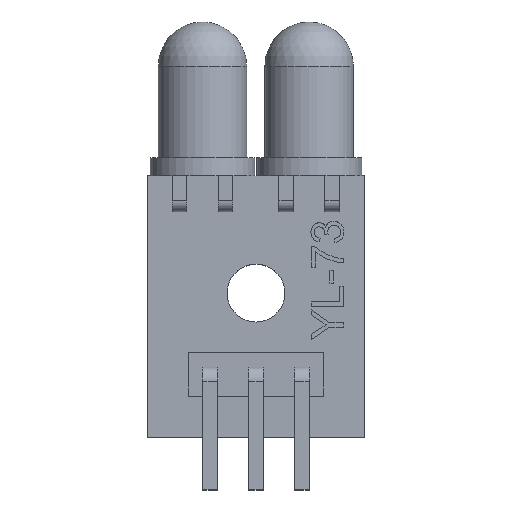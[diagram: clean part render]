
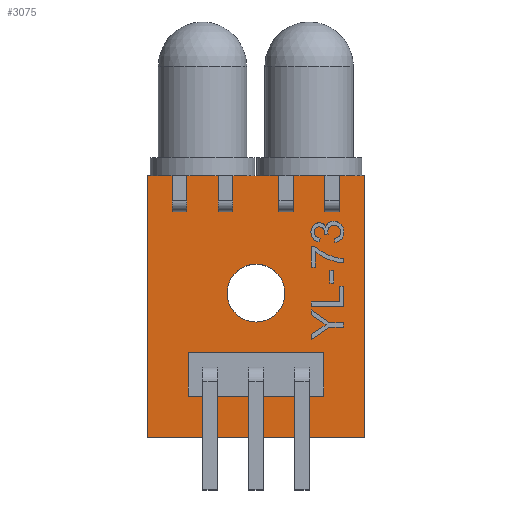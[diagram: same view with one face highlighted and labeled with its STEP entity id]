
A CAD part, top view. The second image highlights one B-rep face of the part: STEP entity #3075.
In plain terms, the highlighted planar face has unit normal (0, 0, 1).
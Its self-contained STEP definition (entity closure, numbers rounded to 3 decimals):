
#161=FACE_BOUND('',#426,.T.);
#162=FACE_BOUND('',#427,.T.);
#163=FACE_BOUND('',#428,.T.);
#164=FACE_BOUND('',#429,.T.);
#165=FACE_BOUND('',#430,.T.);
#177=CIRCLE('',#3282,1.6);
#234=FACE_OUTER_BOUND('',#425,.T.);
#425=EDGE_LOOP('',(#2117,#2118,#2119,#2120));
#426=EDGE_LOOP('',(#2121,#2122,#2123,#2124));
#427=EDGE_LOOP('',(#2125,#2126,#2127,#2128));
#428=EDGE_LOOP('',(#2129,#2130,#2131,#2132));
#429=EDGE_LOOP('',(#2133,#2134,#2135,#2136));
#430=EDGE_LOOP('',(#2137));
#610=LINE('',#4153,#955);
#614=LINE('',#4161,#959);
#617=LINE('',#4167,#962);
#620=LINE('',#4172,#965);
#622=LINE('',#4177,#967);
#626=LINE('',#4185,#971);
#629=LINE('',#4191,#974);
#632=LINE('',#4196,#977);
#634=LINE('',#4201,#979);
#638=LINE('',#4209,#983);
#641=LINE('',#4215,#986);
#644=LINE('',#4220,#989);
#646=LINE('',#4225,#991);
#650=LINE('',#4233,#995);
#653=LINE('',#4239,#998);
#656=LINE('',#4244,#1001);
#660=LINE('',#4258,#1005);
#663=LINE('',#4264,#1008);
#666=LINE('',#4270,#1011);
#669=LINE('',#4274,#1014);
#955=VECTOR('',#3448,10.);
#959=VECTOR('',#3454,10.);
#962=VECTOR('',#3459,10.);
#965=VECTOR('',#3464,10.);
#967=VECTOR('',#3468,10.);
#971=VECTOR('',#3474,10.);
#974=VECTOR('',#3479,10.);
#977=VECTOR('',#3484,10.);
#979=VECTOR('',#3488,10.);
#983=VECTOR('',#3494,10.);
#986=VECTOR('',#3499,10.);
#989=VECTOR('',#3504,10.);
#991=VECTOR('',#3508,10.);
#995=VECTOR('',#3514,10.);
#998=VECTOR('',#3519,10.);
#1001=VECTOR('',#3524,10.);
#1005=VECTOR('',#3536,10.);
#1008=VECTOR('',#3541,10.);
#1011=VECTOR('',#3546,10.);
#1014=VECTOR('',#3551,10.);
#1300=VERTEX_POINT('',#4151);
#1301=VERTEX_POINT('',#4152);
#1304=VERTEX_POINT('',#4160);
#1306=VERTEX_POINT('',#4166);
#1308=VERTEX_POINT('',#4175);
#1309=VERTEX_POINT('',#4176);
#1312=VERTEX_POINT('',#4184);
#1314=VERTEX_POINT('',#4190);
#1316=VERTEX_POINT('',#4199);
#1317=VERTEX_POINT('',#4200);
#1320=VERTEX_POINT('',#4208);
#1322=VERTEX_POINT('',#4214);
#1324=VERTEX_POINT('',#4223);
#1325=VERTEX_POINT('',#4224);
#1328=VERTEX_POINT('',#4232);
#1330=VERTEX_POINT('',#4238);
#1332=VERTEX_POINT('',#4247);
#1336=VERTEX_POINT('',#4255);
#1337=VERTEX_POINT('',#4257);
#1339=VERTEX_POINT('',#4263);
#1341=VERTEX_POINT('',#4269);
#1596=EDGE_CURVE('',#1300,#1301,#610,.T.);
#1600=EDGE_CURVE('',#1301,#1304,#614,.T.);
#1603=EDGE_CURVE('',#1304,#1306,#617,.T.);
#1606=EDGE_CURVE('',#1306,#1300,#620,.T.);
#1608=EDGE_CURVE('',#1308,#1309,#622,.T.);
#1612=EDGE_CURVE('',#1309,#1312,#626,.T.);
#1615=EDGE_CURVE('',#1312,#1314,#629,.T.);
#1618=EDGE_CURVE('',#1314,#1308,#632,.T.);
#1620=EDGE_CURVE('',#1316,#1317,#634,.T.);
#1624=EDGE_CURVE('',#1317,#1320,#638,.T.);
#1627=EDGE_CURVE('',#1320,#1322,#641,.T.);
#1630=EDGE_CURVE('',#1322,#1316,#644,.T.);
#1632=EDGE_CURVE('',#1324,#1325,#646,.T.);
#1636=EDGE_CURVE('',#1325,#1328,#650,.T.);
#1639=EDGE_CURVE('',#1328,#1330,#653,.T.);
#1642=EDGE_CURVE('',#1330,#1324,#656,.T.);
#1644=EDGE_CURVE('',#1332,#1332,#177,.T.);
#1648=EDGE_CURVE('',#1337,#1336,#660,.T.);
#1651=EDGE_CURVE('',#1339,#1337,#663,.T.);
#1654=EDGE_CURVE('',#1341,#1339,#666,.T.);
#1657=EDGE_CURVE('',#1336,#1341,#669,.T.);
#2117=ORIENTED_EDGE('',*,*,#1657,.T.);
#2118=ORIENTED_EDGE('',*,*,#1654,.T.);
#2119=ORIENTED_EDGE('',*,*,#1651,.T.);
#2120=ORIENTED_EDGE('',*,*,#1648,.T.);
#2121=ORIENTED_EDGE('',*,*,#1603,.T.);
#2122=ORIENTED_EDGE('',*,*,#1606,.T.);
#2123=ORIENTED_EDGE('',*,*,#1596,.T.);
#2124=ORIENTED_EDGE('',*,*,#1600,.T.);
#2125=ORIENTED_EDGE('',*,*,#1615,.T.);
#2126=ORIENTED_EDGE('',*,*,#1618,.T.);
#2127=ORIENTED_EDGE('',*,*,#1608,.T.);
#2128=ORIENTED_EDGE('',*,*,#1612,.T.);
#2129=ORIENTED_EDGE('',*,*,#1627,.T.);
#2130=ORIENTED_EDGE('',*,*,#1630,.T.);
#2131=ORIENTED_EDGE('',*,*,#1620,.T.);
#2132=ORIENTED_EDGE('',*,*,#1624,.T.);
#2133=ORIENTED_EDGE('',*,*,#1639,.T.);
#2134=ORIENTED_EDGE('',*,*,#1642,.T.);
#2135=ORIENTED_EDGE('',*,*,#1632,.T.);
#2136=ORIENTED_EDGE('',*,*,#1636,.T.);
#2137=ORIENTED_EDGE('',*,*,#1644,.T.);
#2933=PLANE('',#3288);
#3075=ADVANCED_FACE('',(#234,#161,#162,#163,#164,#165),#2933,.T.);
#3282=AXIS2_PLACEMENT_3D('',#4248,#3528,#3529);
#3288=AXIS2_PLACEMENT_3D('',#4275,#3552,#3553);
#3448=DIRECTION('',(0.,-1.,0.));
#3454=DIRECTION('',(-1.,0.,0.));
#3459=DIRECTION('',(0.,1.,0.));
#3464=DIRECTION('',(1.,0.,0.));
#3468=DIRECTION('',(-1.,0.,0.));
#3474=DIRECTION('',(0.,1.,0.));
#3479=DIRECTION('',(1.,0.,0.));
#3484=DIRECTION('',(0.,-1.,0.));
#3488=DIRECTION('',(-1.,0.,0.));
#3494=DIRECTION('',(0.,1.,0.));
#3499=DIRECTION('',(1.,0.,0.));
#3504=DIRECTION('',(0.,-1.,0.));
#3508=DIRECTION('',(-1.,0.,0.));
#3514=DIRECTION('',(0.,1.,0.));
#3519=DIRECTION('',(1.,0.,0.));
#3524=DIRECTION('',(0.,-1.,0.));
#3528=DIRECTION('center_axis',(0.,0.,-1.));
#3529=DIRECTION('ref_axis',(1.,0.,0.));
#3536=DIRECTION('',(-1.,0.,0.));
#3541=DIRECTION('',(0.,1.,0.));
#3546=DIRECTION('',(1.,0.,0.));
#3551=DIRECTION('',(0.,-1.,0.));
#3552=DIRECTION('center_axis',(0.,0.,1.));
#3553=DIRECTION('ref_axis',(1.,0.,0.));
#4151=CARTESIAN_POINT('',(2.17,13.3,1.6));
#4152=CARTESIAN_POINT('',(2.17,12.5,1.6));
#4153=CARTESIAN_POINT('',(2.17,10.275,1.6));
#4160=CARTESIAN_POINT('',(1.37,12.5,1.6));
#4161=CARTESIAN_POINT('',(4.085,12.5,1.6));
#4166=CARTESIAN_POINT('',(1.37,13.3,1.6));
#4167=CARTESIAN_POINT('',(1.37,9.875,1.6));
#4172=CARTESIAN_POINT('',(3.685,13.3,1.6));
#4175=CARTESIAN_POINT('',(4.71,12.5,1.6));
#4176=CARTESIAN_POINT('',(3.91,12.5,1.6));
#4177=CARTESIAN_POINT('',(5.355,12.5,1.6));
#4184=CARTESIAN_POINT('',(3.91,13.3,1.6));
#4185=CARTESIAN_POINT('',(3.91,9.875,1.6));
#4190=CARTESIAN_POINT('',(4.71,13.3,1.6));
#4191=CARTESIAN_POINT('',(4.955,13.3,1.6));
#4196=CARTESIAN_POINT('',(4.71,10.275,1.6));
#4199=CARTESIAN_POINT('',(8.07,12.5,1.6));
#4200=CARTESIAN_POINT('',(7.27,12.5,1.6));
#4201=CARTESIAN_POINT('',(7.035,12.5,1.6));
#4208=CARTESIAN_POINT('',(7.27,13.3,1.6));
#4209=CARTESIAN_POINT('',(7.27,9.875,1.6));
#4214=CARTESIAN_POINT('',(8.07,13.3,1.6));
#4215=CARTESIAN_POINT('',(6.635,13.3,1.6));
#4220=CARTESIAN_POINT('',(8.07,10.275,1.6));
#4223=CARTESIAN_POINT('',(10.61,12.5,1.6));
#4224=CARTESIAN_POINT('',(9.81,12.5,1.6));
#4225=CARTESIAN_POINT('',(8.305,12.5,1.6));
#4232=CARTESIAN_POINT('',(9.81,13.3,1.6));
#4233=CARTESIAN_POINT('',(9.81,9.875,1.6));
#4238=CARTESIAN_POINT('',(10.61,13.3,1.6));
#4239=CARTESIAN_POINT('',(7.905,13.3,1.6));
#4244=CARTESIAN_POINT('',(10.61,10.275,1.6));
#4247=CARTESIAN_POINT('',(4.4,8.,1.6));
#4248=CARTESIAN_POINT('Origin',(6.,8.,1.6));
#4255=CARTESIAN_POINT('',(0.,14.5,1.6));
#4257=CARTESIAN_POINT('',(12.,14.5,1.6));
#4258=CARTESIAN_POINT('',(12.,14.5,1.6));
#4263=CARTESIAN_POINT('',(12.,0.,1.6));
#4264=CARTESIAN_POINT('',(12.,0.,1.6));
#4269=CARTESIAN_POINT('',(0.,0.,1.6));
#4270=CARTESIAN_POINT('',(0.,0.,1.6));
#4274=CARTESIAN_POINT('',(0.,14.5,1.6));
#4275=CARTESIAN_POINT('Origin',(6.,7.25,1.6));
